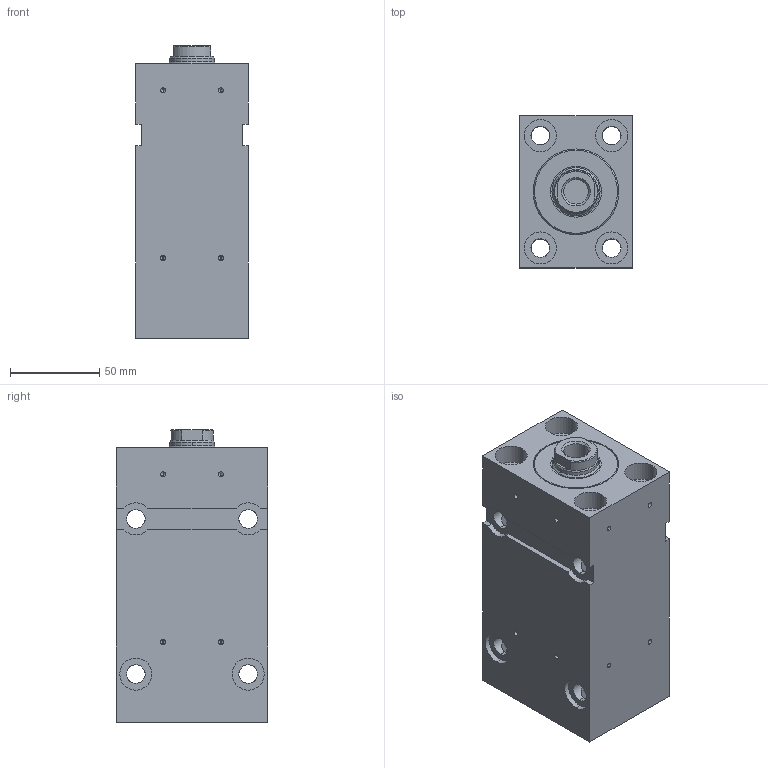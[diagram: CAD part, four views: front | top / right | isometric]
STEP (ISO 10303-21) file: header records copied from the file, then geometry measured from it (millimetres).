
FILE_DESCRIPTION (( 'STEP AP203' ), '1' );
FILE_NAME ('BZ_500.40_25.78.201.100 PP.KBC40__DH_0_.STEP', '2022-05-30T08:21:29', ( '' ), ( '' ), 'SwSTEP 2.0', 'SolidWorks 2020', '' );
FILE_SCHEMA (( 'CONFIG_CONTROL_DESIGN' ));
Length unit declared in the file: millimetre
Products named in the file (6): _Gehaeuse f. BZ500.40_25.Fehler in IDBF.201.100Fehler in IDNT00(1340frei278000))7^BZ_500.40_25.78.201.100 PP.KBC40__DH_0_(2)_BZ_500.40_25.78.201.100 PP.KBC40__DH_0_; _Kolbenstange komplett f. BZ_RZ_FZ.40_25.xx.201.100, Art.-Nr._ 051216(0_11 1 16 2 0 0 10 25 0 0 0)0^BZ_500.40_25.78.201.100 PP.KBC40__DH_0_(2)_BZ_500.40_25.78.201.100 PP.KBC40__DH_0_; _Dichtungssatz f. BZ_RZ_FZ.40_25.xx.201.100 Artikelnr._ 013543(0)^BZ_500.40_25.78.201.100 PP.KBC40__DH_0_(2)_BZ_500.40_25.78.201.100 PP.KBC40__DH_0_; _Verschraubung komplett mit Dichtung f. BZ_RZ_FZ.40_25.201, Art.-Nr._ 041752(201)^BZ_500.40_25.78.201.100 PP.KBC40__DH_0_(2)_BZ_500.40_25.78.201.100 PP.KBC40__DH_0_; BZ_500.40_25.78.201.100 PP.KBC40__DH_0_(2)^BZ_500.40_25.78.201.100 PP.KBC40__DH_0_; BZ_500.40_25.78.201.100 PP.KBC40__DH_0_
Assembly tree (5 placements, depth 3):
  BZ_500.40_25.78.201.100 PP.KBC40__DH_0_
    BZ_500.40_25.78.201.100 PP.KBC40__DH_0_(2)^BZ_500.40_25.78.201.100 PP.KBC40__DH_0_
      _Gehaeuse f. BZ500.40_25.Fehler in IDBF.201.100Fehler in IDNT00(1340frei278000))7^BZ_500.40_25.78.201.100 PP.KBC40__DH_0_(2)_BZ_500.40_25.78.201.100 PP.KBC40__DH_0_
      _Verschraubung komplett mit Dichtung f. BZ_RZ_FZ.40_25.201, Art.-Nr._ 041752(201)^BZ_500.40_25.78.201.100 PP.KBC40__DH_0_(2)_BZ_500.40_25.78.201.100 PP.KBC40__DH_0_
      _Dichtungssatz f. BZ_RZ_FZ.40_25.xx.201.100 Artikelnr._ 013543(0)^BZ_500.40_25.78.201.100 PP.KBC40__DH_0_(2)_BZ_500.40_25.78.201.100 PP.KBC40__DH_0_
      _Kolbenstange komplett f. BZ_RZ_FZ.40_25.xx.201.100, Art.-Nr._ 051216(0_11 1 16 2 0 0 10 25 0 0 0)0^BZ_500.40_25.78.201.100 PP.KBC40__DH_0_(2)_BZ_500.40_25.78.201.100 PP.KBC40__DH_0_
Bounding box: 63 x 85 x 164 mm (x, y, z)
Volume: 651818.6 mm3; surface area: 130825.5 mm2
Topology: 4 solids, 4 shells, 239 faces, 596 edges, 356 vertices
Faces by surface type: cylinder 145, plane 56, cone 38
Entity records: 7816 total; most frequent: CARTESIAN_POINT 1567, DIRECTION 1237, ORIENTED_EDGE 1144, EDGE_CURVE 572, AXIS2_PLACEMENT_3D 491, VERTEX_POINT 356, EDGE_LOOP 294, VECTOR 255
